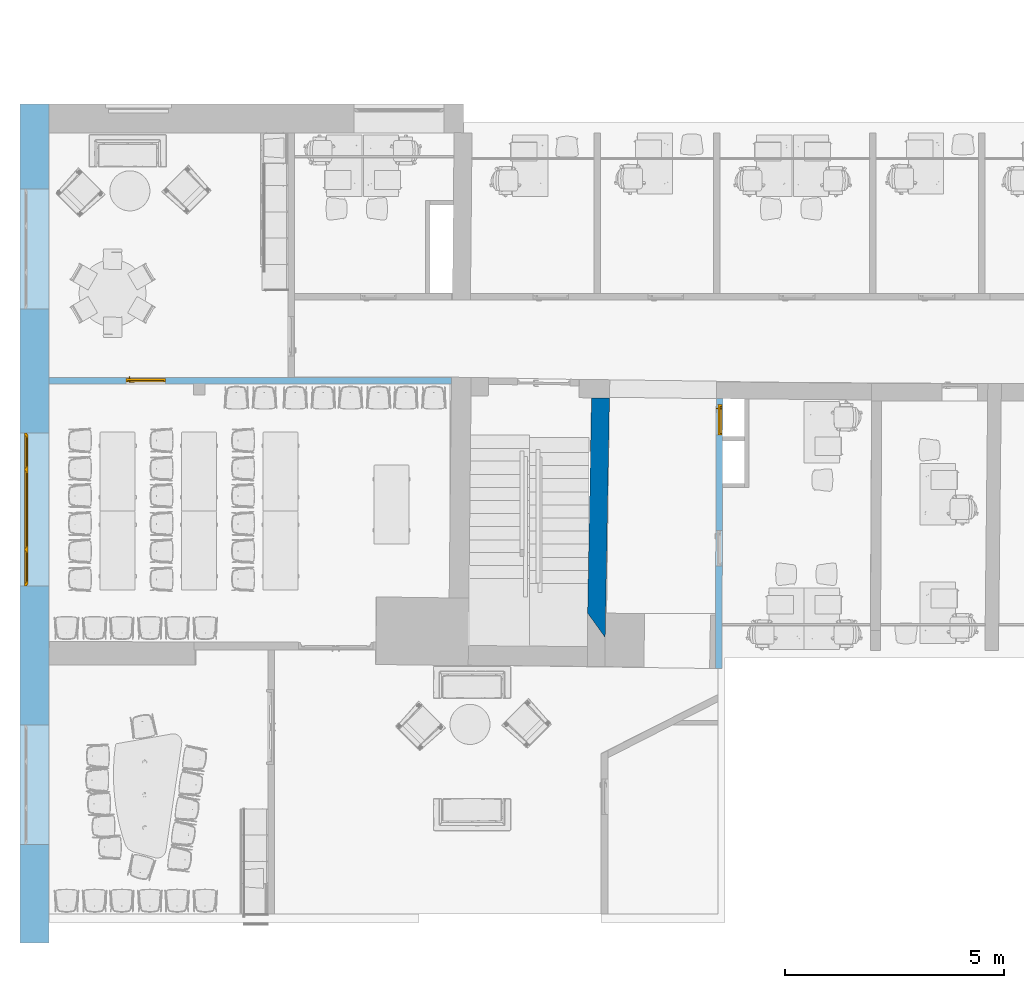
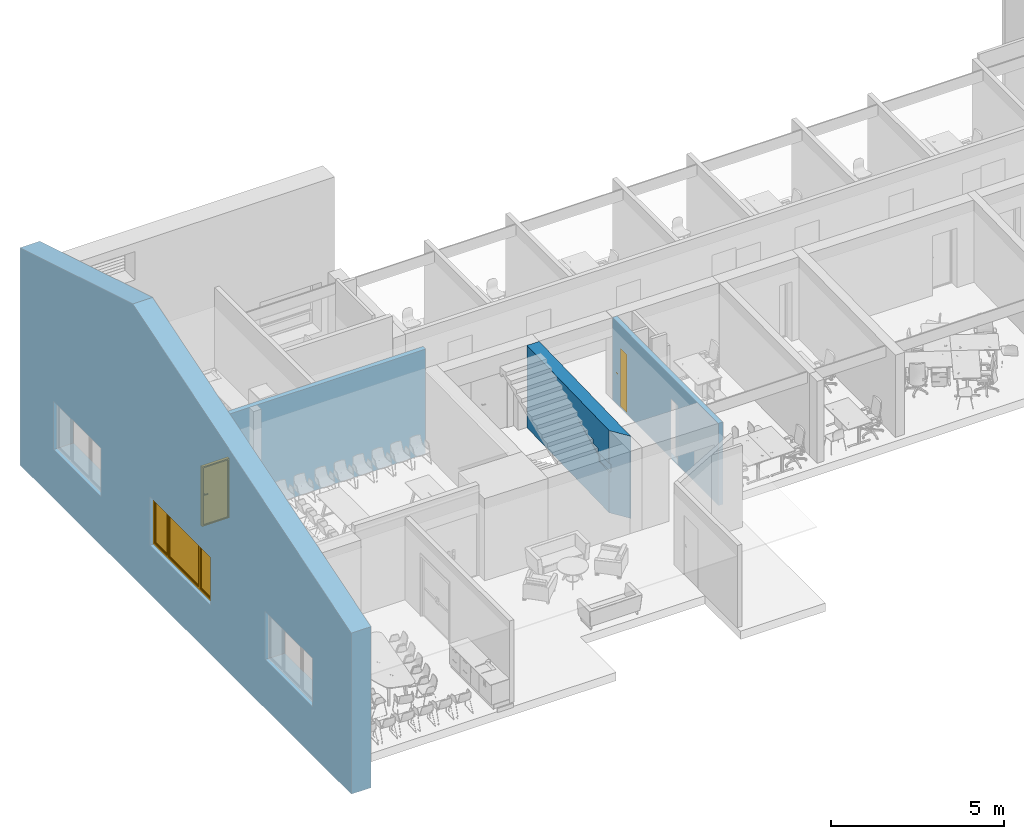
# One storey, part 9 of 19: 2 doors, 1 wall, 1 window, 6 openings, plus 3 elements that do not belong to this part.
"""IFC2X3 building model written with IfcOpenShell, lengths in millimetres."""

from ifc_helpers import new_model, entity, si_unit, converted_unit, derived_unit, direction, frame, frame_2d, origin, place, context, subcontext, project, spatial, polyline, rectangle, outline, extrude, clip, halfspace, bounded_halfspace, faceted_brep, source, transform, mapped, material, material_list, layer, layer_set, layer_usage, type_object, type_shapes, element, fill, save


model = new_model("IFC2X3")

# Units and contexts
model_context = context("Model", 3, precision=0.01, world=origin(), true_north=direction((6.12303176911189e-17, 1.0)))
context_of_model = context(None, 3, precision=0.01, world=origin(), true_north=direction((6.12303176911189e-17, 1.0)))
body_context = subcontext(model_context, "Body", "Model", "MODEL_VIEW")
ifc_project = project(units=[si_unit("LENGTHUNIT", "METRE", prefix="MILLI"), si_unit("AREAUNIT", "SQUARE_METRE"), si_unit("VOLUMEUNIT", "CUBIC_METRE"), converted_unit("PLANEANGLEUNIT", "DEGREE", entity("IfcRatioMeasure", 0.0174532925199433), si_unit("PLANEANGLEUNIT", "RADIAN"), dimensions=[0, 0, 0, 0, 0, 0, 0]), si_unit("MASSUNIT", "GRAM", prefix="KILO"), derived_unit("MASSDENSITYUNIT", [(si_unit("MASSUNIT", "GRAM", prefix="KILO"), 1), (si_unit("LENGTHUNIT", "METRE"), -3)]), si_unit("TIMEUNIT", "SECOND"), si_unit("FREQUENCYUNIT", "HERTZ"), si_unit("THERMODYNAMICTEMPERATUREUNIT", "DEGREE_CELSIUS"), derived_unit("THERMALTRANSMITTANCEUNIT", [(si_unit("MASSUNIT", "GRAM", prefix="KILO"), 1), (si_unit("THERMODYNAMICTEMPERATUREUNIT", "KELVIN"), -1), (si_unit("TIMEUNIT", "SECOND"), -3)]), derived_unit("VOLUMETRICFLOWRATEUNIT", [(si_unit("LENGTHUNIT", "METRE"), 3), (si_unit("TIMEUNIT", "SECOND"), -1)]), si_unit("ELECTRICCURRENTUNIT", "AMPERE"), si_unit("ELECTRICVOLTAGEUNIT", "VOLT"), si_unit("POWERUNIT", "WATT"), si_unit("FORCEUNIT", "NEWTON", prefix="KILO"), si_unit("ILLUMINANCEUNIT", "LUX"), si_unit("LUMINOUSFLUXUNIT", "LUMEN"), si_unit("LUMINOUSINTENSITYUNIT", "CANDELA"), derived_unit("USERDEFINED", [(si_unit("MASSUNIT", "GRAM", prefix="KILO"), -1), (si_unit("LENGTHUNIT", "METRE"), -2), (si_unit("TIMEUNIT", "SECOND"), 3), (si_unit("LUMINOUSFLUXUNIT", "LUMEN"), 1)]), derived_unit("LINEARVELOCITYUNIT", [(si_unit("LENGTHUNIT", "METRE"), 1), (si_unit("TIMEUNIT", "SECOND"), -1)]), si_unit("PRESSUREUNIT", "PASCAL"), derived_unit("USERDEFINED", [(si_unit("LENGTHUNIT", "METRE"), -2), (si_unit("MASSUNIT", "GRAM", prefix="KILO"), 1), (si_unit("TIMEUNIT", "SECOND"), -2)])], contexts=[model_context, context_of_model])

# Site, building, storey
site_placement = place(None, frame((121442.264707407, 135347.995453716, -1800.0)))
site = spatial("IfcSite", under=ifc_project, at=site_placement, Name="Surface", CompositionType="ELEMENT")
building_placement = place(site_placement, origin())
building = spatial("IfcBuilding", under=site, at=building_placement, CompositionType="ELEMENT")
storey_placement = place(building_placement, frame((0.0, 0.0, 5125.0)))
storey = spatial("IfcBuildingStorey", under=building, at=storey_placement, Name="2 korrus", CompositionType="ELEMENT", Elevation=5125.00000000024)

# Wall, openings, door
ifc_material_1 = material(Name="__Betoonelement")
ifc_layer_1 = layer(ifc_material_1, 150.0)
ifc_layer_set_1 = layer_set([ifc_layer_1], Name="Basic Wall:15_Betoon")
ifc_layer_usage_1 = layer_usage(ifc_layer_set_1, "AXIS2", "NEGATIVE", 75.0)
wall_type_1 = type_object("IfcWallType", Name="Basic Wall:15_Betoon", PredefinedType="STANDARD", material=ifc_layer_set_1)
wall_1_placement = place(storey_placement, frame((-103674.129993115, -127553.831899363, -5.0), z_axis=(0.0, 0.0, 1.0), x_axis=(0.00343135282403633, 0.999994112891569, 0.0)))
wall_1 = element("IfcWallStandardCase", 1, at=wall_1_placement, inside=storey, type_object=wall_type_1, material=ifc_layer_usage_1, Name="Basic Wall:15_Betoon", ObjectType="Basic Wall:15_Betoon", context=body_context, shape_type="Clipping", body=[
    clip(extrude(outline(polyline([(6152.17328757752, -75.0), (6152.95022643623, 75.0), (2.10342780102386, 75.0), (0.0, -75.0), (6152.17328757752, -75.0)])), origin(), (0.0, 0.0, 1.0), 2902.0), bounded_halfspace(frame((0.0, -75.0, 2902.0), z_axis=(0.0, 0.0, -1.0), x_axis=(-0.999994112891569, -0.00343135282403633, 0.0)), True, frame((0.0, -75.0, 2902.0)), polyline([(0.0, 0.0), (6152.17328757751, 0.0), (6152.95022643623, 150.0), (1222.22337253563, 150.0), (2.10342780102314, 150.0), (0.0, 0.0)]))),
])
opening_1_placement = place(wall_1_placement, frame((2340.94737332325, -73.6103021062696, 5.0)))
element("IfcOpeningElement", 2, at=opening_1_placement, cuts=wall_1, Name="sma_D01:810 x 2110_SU-01 Siseuks:1", ObjectType="Opening", context=body_context, shape_type="SweptSolid", body=[
    extrude(rectangle(XDim=2099.99999999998, YDim=810.0, at=frame_2d((1049.99999999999, 405.0), x_axis=(1.0, 0.0))), frame((0.0, 0.0, 0.0), z_axis=(0.00343135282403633, 0.999994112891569, 0.0), x_axis=(0.0, 0.0, 1.0)), (0.0, 0.0, 1.0), 150.0),
])
opening_2_placement = place(wall_1_placement, frame((5319.48220216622, -73.79902651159, 5.0)))
opening_2 = element("IfcOpeningElement", 3, at=opening_2_placement, cuts=wall_1, Name="sma_D01:700 x 2100mm SU-13 Tuletokke:1", ObjectType="Opening", context=body_context, shape_type="SweptSolid", body=[
    extrude(rectangle(XDim=2099.99999999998, YDim=700.0, at=frame_2d((1049.99999999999, 350.000000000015), x_axis=(1.0, 0.0))), frame((0.0, 0.0, 0.0), z_axis=(0.00343135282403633, 0.999994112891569, 0.0), x_axis=(0.0, 0.0, 1.0)), (0.0, 0.0, 1.0), 150.0),
])
ifc_material_2 = material(Name="Metal - Aluminium")
ifc_material_3 = material(Name="Metalli - teras- valge")
ifc_material_list_1 = material_list([ifc_material_2, ifc_material_3])
ifc_material_list_2 = material_list([ifc_material_2, ifc_material_3])
door_style_1 = type_object("IfcDoorStyle", Name="700 x 2100mm SU-13 Tuletokke", ConstructionType="NOTDEFINED", OperationType="SINGLE_SWING_LEFT", ParameterTakesPrecedence=False, Sizeable=False, material=ifc_material_list_2)
shared_shape_1 = source(origin(), body_context, "Body", "Brep", [
    faceted_brep([(600.0, 40.0, 1112.5), (505.0, 40.0, 1112.5), (505.0, 35.0, 1112.5), (625.0, 35.0, 1112.5), (625.0, 78.0, 1112.5), (600.0, 78.0, 1112.5), (600.0, 40.0, 1087.5), (600.0, 78.0, 1087.5), (625.0, 78.0, 1087.5), (625.0, 35.0, 1087.5), (505.0, 35.0, 1087.5), (505.0, 40.0, 1087.5)], [[[0, 1, 2, 3, 4, 5]], [[6, 7, 8, 9, 10, 11]], [[5, 7, 6, 0]], [[4, 8, 7, 5]], [[3, 9, 8, 4]], [[2, 10, 9, 3]], [[1, 11, 10, 2]], [[0, 6, 11, 1]]]),
    faceted_brep([(587.500000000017, 78.0, 1137.5), (637.500000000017, 78.0, 1137.5), (637.500000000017, 80.0, 1137.5), (587.500000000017, 80.0, 1137.5), (587.500000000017, 78.0, 1017.5), (587.500000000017, 80.0, 1017.5), (637.500000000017, 80.0, 1017.5), (637.500000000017, 78.0, 1017.5)], [[[0, 1, 2, 3]], [[4, 5, 6, 7]], [[3, 5, 4, 0]], [[2, 6, 5, 3]], [[1, 7, 6, 2]], [[0, 4, 7, 1]]]),
    faceted_brep([(600.0, 170.0, 1112.5), (600.0, 132.0, 1112.5), (625.0, 132.0, 1112.5), (625.0, 175.0, 1112.5), (505.0, 175.0, 1112.5), (505.0, 170.0, 1112.5), (600.0, 170.0, 1087.5), (505.0, 170.0, 1087.5), (505.0, 175.0, 1087.5), (625.0, 175.0, 1087.5), (625.0, 132.0, 1087.5), (600.0, 132.0, 1087.5)], [[[0, 1, 2, 3, 4, 5]], [[6, 7, 8, 9, 10, 11]], [[1, 0, 6, 11]], [[2, 1, 11, 10]], [[3, 2, 10, 9]], [[4, 3, 9, 8]], [[5, 4, 8, 7]], [[0, 5, 7, 6]]]),
    faceted_brep([(587.500000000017, 132.0, 1137.5), (587.500000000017, 130.0, 1137.5), (637.500000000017, 130.0, 1137.5), (637.500000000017, 132.0, 1137.5), (587.500000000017, 132.0, 1017.5), (637.500000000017, 132.0, 1017.5), (637.500000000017, 130.0, 1017.5), (587.500000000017, 130.0, 1017.5)], [[[0, 1, 2, 3]], [[4, 5, 6, 7]], [[1, 0, 4, 7]], [[2, 1, 7, 6]], [[3, 2, 6, 5]], [[0, 3, 5, 4]]]),
    faceted_brep([(0.0, 40.0, 0.0), (0.0, 130.0, 0.0), (25.0, 130.0, 0.0), (25.0, 80.0, 0.0), (40.0, 80.0, 0.0), (40.0, 40.0, 0.0), (40.0, 40.0, 2060.0), (660.0, 40.0, 2060.0), (660.0, 40.0, 0.0), (700.0, 40.0, 0.0), (700.0, 40.0, 2100.0), (0.0, 40.0, 2100.0), (40.0, 80.0, 2060.0), (25.0, 80.0, 2075.0), (675.0, 80.0, 2075.0), (675.0, 80.0, 0.0), (660.0, 80.0, 0.0), (660.0, 80.0, 2060.0), (25.0, 130.0, 2075.0), (0.0, 130.0, 2100.0), (700.0, 130.0, 2100.0), (700.0, 130.0, 0.0), (675.0, 130.0, 0.0), (675.0, 130.0, 2075.0)], [[[0, 1, 2, 3, 4, 5]], [[5, 6, 7, 8, 9, 10, 11, 0]], [[4, 12, 6, 5]], [[3, 13, 14, 15, 16, 17, 12, 4]], [[2, 18, 13, 3]], [[1, 19, 20, 21, 22, 23, 18, 2]], [[0, 11, 19, 1]], [[10, 9, 21, 20]], [[9, 8, 16, 15, 22, 21]], [[17, 16, 8, 7]], [[23, 22, 15, 14]], [[12, 17, 7, 6]], [[18, 23, 14, 13]], [[11, 10, 20, 19]]]),
    faceted_brep([(675.0, 80.0, 2075.0), (25.0, 80.0, 2075.0), (25.0, 80.0, 20.0), (675.0, 80.0, 20.0), (675.0, 130.0, 2075.0), (675.0, 130.0, 20.0), (25.0, 130.0, 20.0), (25.0, 130.0, 2075.0)], [[[0, 1, 2, 3]], [[4, 5, 6, 7]], [[3, 5, 4, 0]], [[2, 6, 5, 3]], [[1, 7, 6, 2]], [[0, 4, 7, 1]]]),
    faceted_brep([(40.0, 40.0, 30.0), (40.0, 80.0, 30.0), (40.0, 80.0, 20.0), (40.0, 80.0, 0.0), (40.0, 40.0, 0.0), (660.0, 40.0, 30.0), (660.0, 40.0, 0.0), (660.0, 80.0, 0.0), (660.0, 80.0, 20.0), (660.0, 80.0, 30.0), (25.0, 80.0, 0.0), (25.0, 130.0, 0.0), (675.0, 130.0, 0.0), (675.0, 80.0, 0.0), (25.0, 130.0, 20.0), (25.0, 80.0, 20.0), (675.0, 130.0, 20.0), (675.0, 80.0, 20.0)], [[[0, 1, 2, 3, 4]], [[5, 6, 7, 8, 9]], [[4, 6, 5, 0]], [[3, 10, 11, 12, 13, 7, 6, 4]], [[9, 8, 2, 1]], [[0, 5, 9, 1]], [[14, 11, 10, 15]], [[16, 17, 13, 12]], [[15, 2, 8, 17, 16, 14]], [[10, 3, 2, 15]], [[14, 16, 12, 11]], [[17, 8, 7, 13]]]),
])
type_shapes(door_style_1, [shared_shape_1])
door_1_placement = place(opening_2_placement, frame((0.0, -19.4545427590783, 0.0)))
door_1 = element("IfcDoor", 4, at=door_1_placement, inside=storey, type_object=door_style_1, material=ifc_material_list_1, Name="sma_D01:700 x 2100mm SU-13 Tuletokke", ObjectType="700 x 2100mm SU-13 Tuletokke", OverallHeight=2099.99999999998, OverallWidth=700.000000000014, context=body_context, shape_type="MappedRepresentation", body=[
    mapped(shared_shape_1, transform((0.0, 0.0, 0.0), scale=1.0)),
])
fill(opening_2, door_1)

# Wall
ifc_layer_2 = layer(ifc_material_1, 410.0)
ifc_layer_set_2 = layer_set([ifc_layer_2], Name="Basic Wall:41_Betoon 2")
wall_type_2 = type_object("IfcWallType", Name="Basic Wall:41_Betoon 2", PredefinedType="STANDARD", material=ifc_layer_set_2)
wall_2_placement = place(storey_placement, frame((-106464.55483536, -126843.899324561, 0.0), z_axis=(0.0, 0.0, 1.0), x_axis=(0.0179982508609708, 0.999838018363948, 0.0)))
element("IfcWall", 5, at=wall_2_placement, inside=storey, type_object=wall_type_2, Name="Basic Wall:41_Betoon 2", ObjectType="Basic Wall:41_Betoon 2", context=body_context, shape_type="Brep", body=[
    faceted_brep([(0.0, -205.0, 0.0), (560.038789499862, -205.0, 0.0), (5457.6038059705, -205.0, 0.0), (5457.6038059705, -205.0, 2897.0), (560.038789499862, -205.0, 2897.0), (0.0, -205.0, 2897.0), (5457.07467158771, 205.0, 0.0), (551.919606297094, 205.0, 0.0), (551.919606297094, 205.0, 1445.53078869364), (1143.06851692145, 205.0, 1445.53078869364), (1143.06851692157, 205.0, 1612.96104898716), (2490.83920232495, 205.0, 2193.39023738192), (2490.83920232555, 205.0, 2399.21104898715), (2424.78177030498, 205.0, 2399.21104898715), (2424.78177030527, 205.0, 2264.21104898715), (2124.73316794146, 205.0, 2264.21104898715), (2124.73316794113, 205.0, 2134.21104898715), (1824.68456557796, 205.0, 2134.21104898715), (1824.68456557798, 205.0, 1999.21104898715), (1524.63596321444, 205.0, 1999.21104898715), (1524.63596321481, 205.0, 1869.21104898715), (1224.58736085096, 205.0, 1869.21104898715), (1224.5873608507, 205.0, 1737.96104898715), (551.919606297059, 205.0, 1737.96104898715), (551.919606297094, 205.0, 2897.0), (4375.25687216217, 205.0, 2897.0), (5457.07467158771, 205.0, 2897.0), (456.97096783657, 134.466282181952, 2897.0), (503.768537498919, 169.230409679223, 1737.96104898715), (503.768537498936, 169.23040967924, 1445.53078869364), (2424.80316875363, 203.811274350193, 2264.21104898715), (2424.80316875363, 203.811274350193, 2399.21104898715), (1143.5051097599, 180.746414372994, 1612.96104898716), (1143.5051097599, 180.746414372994, 1445.53078869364), (1224.99754671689, 182.213373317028, 1737.96104898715), (1224.99754671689, 182.213373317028, 1869.21104898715), (1524.94895222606, 187.612848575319, 1869.21104898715), (1524.94895222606, 187.612848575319, 1999.21104898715), (1824.90035773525, 193.01232383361, 1999.21104898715), (1824.90035773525, 193.01232383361, 2134.21104898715), (2124.85176324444, 198.411799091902, 2134.21104898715), (2124.85176324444, 198.411799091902, 2264.21104898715), (4219.3107216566, 202.192787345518, 2897.0)], [[[0, 1, 2, 3, 4, 5]], [[6, 7, 8, 9, 10, 11, 12, 13, 14, 15, 16, 17, 18, 19, 20, 21, 22, 23, 24, 25, 26]], [[2, 1, 0, 7, 6]], [[0, 5, 27, 24, 23, 28, 29, 8, 7]], [[3, 2, 6, 26]], [[30, 31, 12, 11, 32, 33, 29, 28, 34, 35, 36, 37, 38, 39, 40, 41]], [[12, 31, 13]], [[31, 30, 14, 13]], [[30, 41, 15, 14]], [[41, 40, 16, 15]], [[40, 39, 17, 16]], [[39, 38, 18, 17]], [[38, 37, 19, 18]], [[37, 36, 20, 19]], [[36, 35, 21, 20]], [[35, 34, 22, 21]], [[34, 28, 23, 22]], [[33, 32, 10, 9]], [[32, 11, 10]], [[29, 33, 9, 8]], [[25, 24, 27, 42]], [[27, 5, 4, 3, 26, 25, 42]]]),
])

# Wall, openings, window
ifc_material_4 = material(Name="Plaster")
ifc_layer_3 = layer(ifc_material_4, 10.0)
ifc_material_5 = material(Name="Polystyrene")
ifc_layer_4 = layer(ifc_material_5, 150.0)
ifc_layer_5 = layer(ifc_material_1, 500.0)
ifc_layer_set_3 = layer_set([ifc_layer_3, ifc_layer_4, ifc_layer_5], Name="Basic Wall:Olemasolev Soojustatud Välissein")
ifc_layer_usage_2 = layer_usage(ifc_layer_set_3, "AXIS2", "NEGATIVE", 330.0)
wall_type_3 = type_object("IfcWallType", Name="Basic Wall:Olemasolev Soojustatud Välissein", PredefinedType="STANDARD", material=ifc_layer_set_3)
wall_3_placement = place(storey_placement, frame((-119265.776610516, -133809.317476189, -826.94497628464), z_axis=(0.0, 0.0, 1.0), x_axis=(0.0, 1.0, 0.0)))
wall_3 = element("IfcWallStandardCase", 6, at=wall_3_placement, inside=storey, type_object=wall_type_3, material=ifc_layer_usage_2, Name="Basic Wall:Olemasolev Soojustatud Välissein", ObjectType="Basic Wall:Olemasolev Soojustatud Välissein", context=body_context, shape_type="Clipping", body=[
    clip(clip(extrude(rectangle(XDim=19127.3983638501, YDim=659.999999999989, at=frame_2d((9563.69918192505, -5.6843418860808e-14), x_axis=(-1.0, 0.0))), origin(), (0.0, 0.0, 1.0), 9629.49814305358), halfspace(frame((12614.5928956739, -330.0, 9629.49814305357), z_axis=(0.289651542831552, 0.0, 0.957132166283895), x_axis=(0.0, 1.0, 0.0)), False)), halfspace(frame((0.0, -330.0, 5674.42025918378), z_axis=(-0.299171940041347, 0.0, 0.954199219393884), x_axis=(0.0, 1.0, 0.0)), False)),
])
opening_3_placement = place(wall_3_placement, frame((14452.3983638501, -330.0, 1726.94497628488)))
element("IfcOpeningElement", 7, at=opening_3_placement, cuts=wall_3, Name="sma_W5:A-4 2470 x 1200mm Avatav:1", ObjectType="Opening", context=body_context, shape_type="SweptSolid", body=[
    extrude(rectangle(XDim=1700.0, YDim=2730.0, at=frame_2d((850.0, 1365.0), x_axis=(1.0, 0.0))), frame((0.0, 0.0, 0.0), z_axis=(0.0, 1.0, 0.0), x_axis=(0.0, 0.0, 1.0)), (0.0, 0.0, 1.0), 660.0),
])
opening_4_placement = place(wall_3_placement, frame((8133.67684417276, -330.0, 1726.94497628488)))
opening_4 = element("IfcOpeningElement", 8, at=opening_4_placement, cuts=wall_3, Name="sma_W5:A-3 3490 x 1700mm Avatav:1", ObjectType="Opening", context=body_context, shape_type="SweptSolid", body=[
    extrude(rectangle(XDim=1700.0, YDim=3490.0, at=frame_2d((850.0, 1745.0), x_axis=(1.0, 0.0))), frame((0.0, 0.0, 0.0), z_axis=(0.0, 1.0, 0.0), x_axis=(0.0, 0.0, 1.0)), (0.0, 0.0, 1.0), 660.0),
])
opening_5_placement = place(wall_3_placement, frame((2245.0, -330.0, 1726.94497628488)))
element("IfcOpeningElement", 9, at=opening_5_placement, cuts=wall_3, Name="sma_W5:A-4 2470 x 1200mm Avatav:1", ObjectType="Opening", context=body_context, shape_type="SweptSolid", body=[
    extrude(rectangle(XDim=1700.0, YDim=2730.0, at=frame_2d((850.0, 1365.0), x_axis=(1.0, 0.0))), frame((0.0, 0.0, 0.0), z_axis=(0.0, 1.0, 0.0), x_axis=(0.0, 0.0, 1.0)), (0.0, 0.0, 1.0), 660.0),
])
ifc_material_6 = material(Name="Glass")
ifc_material_7 = material(Name="Default")
ifc_material_8 = material(Name="PVC, Flexible")
ifc_material_list_3 = material_list([ifc_material_6, ifc_material_7, ifc_material_8])
ifc_material_list_4 = material_list([ifc_material_6, ifc_material_7, ifc_material_8])
window_style = type_object("IfcWindowStyle", Name="A-3 3490 x 1700mm Avatav", ConstructionType="OTHER_CONSTRUCTION", OperationType="NOTDEFINED", ParameterTakesPrecedence=False, Sizeable=False, material=ifc_material_list_4)
shared_shape_2 = source(origin(), body_context, "Body", "Brep", [
    faceted_brep([(105.0, 493.09170113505, 105.0), (765.0, 493.091701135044, 105.0), (765.0, 493.091701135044, 1595.0), (105.0, 493.09170113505, 1595.0), (105.0, 513.09170113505, 105.0), (765.0, 513.091701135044, 105.0), (765.0, 513.091701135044, 1595.0), (105.0, 513.09170113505, 1595.0)], [[[0, 1, 2, 3]], [[1, 0, 4, 5]], [[2, 1, 5, 6]], [[0, 3, 7, 4]], [[4, 7, 6, 5]], [[3, 2, 6, 7]]]),
    faceted_brep([(905.0, 493.091701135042, 105.0), (2585.0, 493.091701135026, 105.0), (2585.0, 493.091701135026, 1595.0), (905.0, 493.091701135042, 1595.0), (905.0, 513.091701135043, 105.0), (2585.0, 513.091701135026, 105.0), (2585.0, 513.091701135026, 1595.0), (905.0, 513.091701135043, 1595.0)], [[[0, 1, 2, 3]], [[1, 0, 4, 5]], [[2, 1, 5, 6]], [[0, 3, 7, 4]], [[4, 7, 6, 5]], [[3, 2, 6, 7]]]),
    faceted_brep([(2725.0, 493.091701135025, 105.0), (3385.0, 493.091701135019, 105.0), (3385.0, 493.091701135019, 1595.0), (2725.0, 493.091701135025, 1595.0), (2725.0, 513.091701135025, 105.0), (3385.0, 513.091701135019, 105.0), (3385.0, 513.091701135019, 1595.0), (2725.0, 513.091701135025, 1595.0)], [[[0, 1, 2, 3]], [[1, 0, 4, 5]], [[2, 1, 5, 6]], [[0, 3, 7, 4]], [[4, 7, 6, 5]], [[3, 2, 6, 7]]]),
    faceted_brep([(35.0, 478.091701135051, 35.0), (835.0, 478.091701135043, 35.0), (835.0, 478.091701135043, 1665.0), (35.0, 478.091701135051, 1665.0), (105.0, 478.09170113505, 105.0), (105.0, 478.09170113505, 1595.0), (765.0, 478.091701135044, 1595.0), (765.0, 478.091701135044, 105.0), (35.0, 528.091701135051, 35.0), (835.0, 528.091701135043, 35.0), (835.0, 528.091701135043, 1665.0), (35.0, 528.091701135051, 1665.0), (105.0, 528.09170113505, 105.0), (105.0, 528.09170113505, 1595.0), (765.0, 528.091701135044, 1595.0), (765.0, 528.091701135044, 105.0)], [[[0, 1, 2, 3], [4, 5, 6, 7]], [[1, 0, 8, 9]], [[2, 1, 9, 10]], [[0, 3, 11, 8]], [[5, 4, 12, 13]], [[7, 6, 14, 15]], [[4, 7, 15, 12]], [[8, 11, 10, 9], [12, 15, 14, 13]], [[3, 2, 10, 11]], [[6, 5, 13, 14]]]),
    faceted_brep([(835.0, 478.091701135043, 35.0), (2655.0, 478.091701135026, 35.0), (2655.0, 478.091701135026, 1665.0), (835.0, 478.091701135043, 1665.0), (905.0, 478.091701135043, 1595.0), (2585.0, 478.091701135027, 1595.0), (2585.0, 478.091701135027, 105.0), (905.0, 478.091701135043, 105.0), (835.0, 528.091701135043, 35.0), (2655.0, 528.091701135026, 35.0), (2655.0, 528.091701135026, 1665.0), (835.0, 528.091701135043, 1665.0), (2585.0, 528.091701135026, 1595.0), (2585.0, 528.091701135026, 105.0), (905.0, 528.091701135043, 105.0), (905.0, 528.091701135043, 1595.0)], [[[0, 1, 2, 3], [4, 5, 6, 7]], [[1, 0, 8, 9]], [[2, 1, 9, 10]], [[0, 3, 11, 8]], [[6, 5, 12, 13]], [[7, 6, 13, 14]], [[4, 7, 14, 15]], [[8, 11, 10, 9], [15, 14, 13, 12]], [[3, 2, 10, 11]], [[5, 4, 15, 12]]]),
    faceted_brep([(2655.0, 478.091701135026, 1665.0), (2655.0, 478.091701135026, 35.0), (3455.0, 478.091701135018, 35.0), (3455.0, 478.091701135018, 1665.0), (2725.0, 478.091701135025, 1595.0), (3385.0, 478.091701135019, 1595.0), (3385.0, 478.091701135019, 105.0), (2725.0, 478.091701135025, 105.0), (2655.0, 528.091701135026, 1665.0), (2655.0, 528.091701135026, 35.0), (3455.0, 528.091701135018, 35.0), (3455.0, 528.091701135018, 1665.0), (3385.0, 528.091701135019, 1595.0), (3385.0, 528.091701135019, 105.0), (2725.0, 528.091701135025, 105.0), (2725.0, 528.091701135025, 1595.0)], [[[0, 1, 2, 3], [4, 5, 6, 7]], [[1, 0, 8, 9]], [[2, 1, 9, 10]], [[3, 2, 10, 11]], [[6, 5, 12, 13]], [[7, 6, 13, 14]], [[4, 7, 14, 15]], [[15, 14, 13, 12], [8, 11, 10, 9]], [[0, 3, 11, 8]], [[5, 4, 15, 12]]], outer=[[True, False], [True], [True], [True], [True], [True], [True], [False, True], [True], [True]]),
    faceted_brep([(0.0, 503.091701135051, 0.0), (3490.0, 503.091701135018, 0.0), (3490.0, 503.091701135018, 1700.0), (0.0, 503.091701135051, 1700.0), (35.0, 503.091701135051, 1665.0), (3455.0, 503.091701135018, 1665.0), (3455.0, 503.091701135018, 35.0), (35.0, 503.091701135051, 35.0), (0.0, 553.091701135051, 0.0), (3490.0, 553.091701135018, 0.0), (3490.0, 553.091701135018, 1700.0), (0.0, 553.091701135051, 1700.0), (3455.0, 528.091701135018, 1665.0), (3455.0, 528.091701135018, 35.0), (35.0, 528.091701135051, 35.0), (35.0, 528.091701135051, 1665.0), (70.0, 553.09170113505, 70.0), (800.0, 553.091701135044, 70.0), (800.0, 553.091701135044, 1630.0), (70.0, 553.09170113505, 1630.0), (870.0, 553.091701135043, 1630.0), (870.0, 553.091701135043, 70.0), (2620.0, 553.091701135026, 70.0), (2620.0, 553.091701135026, 1630.0), (2690.0, 553.091701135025, 70.0), (3420.0, 553.091701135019, 70.0), (3420.0, 553.091701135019, 1630.0), (2690.0, 553.091701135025, 1630.0), (2690.0, 528.091701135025, 70.0), (3420.0, 528.091701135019, 70.0), (3420.0, 528.091701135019, 1630.0), (2690.0, 528.091701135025, 1630.0), (870.0, 528.091701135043, 1630.0), (870.0, 528.091701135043, 70.0), (2620.0, 528.091701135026, 70.0), (2620.0, 528.091701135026, 1630.0), (70.0, 528.091701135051, 70.0), (800.0, 528.091701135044, 70.0), (800.0, 528.091701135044, 1630.0), (70.0, 528.091701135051, 1630.0)], [[[0, 1, 2, 3], [4, 5, 6, 7]], [[1, 0, 8, 9]], [[2, 1, 9, 10]], [[0, 3, 11, 8]], [[12, 13, 6, 5]], [[6, 13, 14, 7]], [[14, 15, 4, 7]], [[8, 11, 10, 9], [16, 17, 18, 19], [20, 21, 22, 23], [24, 25, 26, 27]], [[25, 24, 28, 29]], [[26, 25, 29, 30]], [[24, 27, 31, 28]], [[21, 20, 32, 33]], [[22, 21, 33, 34]], [[23, 22, 34, 35]], [[17, 16, 36, 37]], [[18, 17, 37, 38]], [[16, 19, 39, 36]], [[13, 12, 15, 14], [28, 31, 30, 29], [36, 39, 38, 37], [32, 35, 34, 33]], [[3, 2, 10, 11]], [[15, 12, 5, 4]], [[27, 26, 30, 31]], [[20, 23, 35, 32]], [[19, 18, 38, 39]]]),
])
type_shapes(window_style, [shared_shape_2])
window_placement = place(opening_4_placement, origin())
window = element("IfcWindow", 10, at=window_placement, inside=storey, type_object=window_style, material=ifc_material_list_3, Name="sma_W5:A-3 3490 x 1700mm Avatav", ObjectType="A-3 3490 x 1700mm Avatav", OverallHeight=1700.0, OverallWidth=3490.0, context=body_context, shape_type="MappedRepresentation", body=[
    mapped(shared_shape_2, transform((0.0, 0.0, 0.0), scale=1.0)),
])
fill(opening_4, window)

# Wall, opening, door
ifc_layer_6 = layer(ifc_material_4, 10.0)
ifc_material_9 = material(Name="EST. Müüritis. Väikeplokk. Kergkruusplokk")
ifc_layer_7 = layer(ifc_material_9, 130.0)
ifc_layer_8 = layer(ifc_material_4, 10.0)
ifc_layer_set_4 = layer_set([ifc_layer_6, ifc_layer_7, ifc_layer_8], Name="Basic Wall:15_FIBO")
ifc_layer_usage_3 = layer_usage(ifc_layer_set_4, "AXIS2", "POSITIVE", -75.0)
wall_type_4 = type_object("IfcWallType", Name="Basic Wall:15_FIBO", PredefinedType="STANDARD", material=ifc_layer_set_4)
wall_4_placement = place(storey_placement, frame((-109760.980380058, -120991.464570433, 0.0), z_axis=(0.0, 0.0, 1.0), x_axis=(-1.0, 0.0, 0.0)))
wall_4 = element("IfcWallStandardCase", 11, at=wall_4_placement, inside=storey, type_object=wall_type_4, material=ifc_layer_usage_3, Name="Basic Wall:15_FIBO", ObjectType="Basic Wall:15_FIBO", context=body_context, shape_type="SweptSolid", body=[
    extrude(rectangle(XDim=9174.79623045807, YDim=150.000000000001, at=frame_2d((4587.39811522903, 7.105427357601e-15), x_axis=(1.0, 0.0))), origin(), (0.0, 0.0, 1.0), 3690.0),
])
opening_6_placement = place(wall_4_placement, frame((7424.79623045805, 75.0, 0.0)))
opening_6 = element("IfcOpeningElement", 12, at=opening_6_placement, cuts=wall_4, Name="sma_D01:910 x 2110_SU-02 Siseuks:1", ObjectType="Opening", context=body_context, shape_type="SweptSolid", body=[
    extrude(rectangle(XDim=2099.99999999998, YDim=910.0, at=frame_2d((1049.99999999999, 455.0), x_axis=(1.0, 0.0))), frame((0.0, 0.0, 0.0), z_axis=(0.0, -1.0, 0.0), x_axis=(0.0, 0.0, 1.0)), (0.0, 0.0, 1.0), 150.0),
])
ifc_material_10 = material(Name="Door - Panel_valge")
ifc_material_list_5 = material_list([ifc_material_2, ifc_material_10])
ifc_material_list_6 = material_list([ifc_material_2, ifc_material_10])
door_style_2 = type_object("IfcDoorStyle", Name="910 x 2110_SU-02 Siseuks", ConstructionType="NOTDEFINED", OperationType="SINGLE_SWING_RIGHT", ParameterTakesPrecedence=False, Sizeable=False, material=ifc_material_list_6)
shared_shape_3 = source(origin(), body_context, "Body", "Brep", [
    faceted_brep([(100.0, 40.0, 1112.5), (100.0, 78.0, 1112.5), (75.0, 78.0, 1112.5), (75.0, 35.0, 1112.5), (195.0, 35.0, 1112.5), (195.0, 40.0, 1112.5), (100.0, 40.0, 1087.5), (195.0, 40.0, 1087.5), (195.0, 35.0, 1087.5), (75.0, 35.0, 1087.5), (75.0, 78.0, 1087.5), (100.0, 78.0, 1087.5)], [[[0, 1, 2, 3, 4, 5]], [[6, 7, 8, 9, 10, 11]], [[1, 0, 6, 11]], [[2, 1, 11, 10]], [[3, 2, 10, 9]], [[4, 3, 9, 8]], [[5, 4, 8, 7]], [[0, 5, 7, 6]]]),
    faceted_brep([(112.5, 78.0, 1137.5), (112.5, 80.0, 1137.5), (62.4999999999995, 80.0, 1137.5), (62.4999999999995, 78.0, 1137.5), (112.5, 78.0, 1017.5), (62.4999999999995, 78.0, 1017.5), (62.4999999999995, 80.0, 1017.5), (112.5, 80.0, 1017.5)], [[[0, 1, 2, 3]], [[4, 5, 6, 7]], [[1, 0, 4, 7]], [[2, 1, 7, 6]], [[3, 2, 6, 5]], [[0, 3, 5, 4]]]),
    faceted_brep([(100.0, 170.0, 1112.5), (195.0, 170.0, 1112.5), (195.0, 175.0, 1112.5), (75.0, 175.0, 1112.5), (75.0, 132.0, 1112.5), (100.0, 132.0, 1112.5), (100.0, 170.0, 1087.5), (100.0, 132.0, 1087.5), (75.0, 132.0, 1087.5), (75.0, 175.0, 1087.5), (195.0, 175.0, 1087.5), (195.0, 170.0, 1087.5)], [[[0, 1, 2, 3, 4, 5]], [[6, 7, 8, 9, 10, 11]], [[5, 7, 6, 0]], [[4, 8, 7, 5]], [[3, 9, 8, 4]], [[2, 10, 9, 3]], [[1, 11, 10, 2]], [[0, 6, 11, 1]]]),
    faceted_brep([(112.5, 132.0, 1137.5), (62.4999999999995, 132.0, 1137.5), (62.4999999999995, 130.0, 1137.5), (112.5, 130.0, 1137.5), (112.5, 132.0, 1017.5), (112.5, 130.0, 1017.5), (62.4999999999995, 130.0, 1017.5), (62.4999999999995, 132.0, 1017.5)], [[[0, 1, 2, 3]], [[4, 5, 6, 7]], [[3, 5, 4, 0]], [[2, 6, 5, 3]], [[1, 7, 6, 2]], [[0, 4, 7, 1]]]),
    faceted_brep([(910.0, 40.0, 0.0), (870.0, 40.0, 0.0), (870.0, 80.0, 0.0), (885.0, 80.0, 0.0), (885.0, 130.0, 0.0), (910.0, 130.0, 0.0), (910.0, 40.0, 2100.0), (0.0, 40.0, 2100.0), (0.0, 40.0, 0.0), (40.0, 40.0, 0.0), (40.0, 40.0, 2060.0), (870.0, 40.0, 2060.0), (870.0, 80.0, 2060.0), (40.0, 80.0, 2060.0), (40.0, 80.0, 0.0), (25.0, 80.0, 0.0), (25.0, 80.0, 2075.0), (885.0, 80.0, 2075.0), (885.0, 130.0, 2075.0), (25.0, 130.0, 2075.0), (25.0, 130.0, 0.0), (0.0, 130.0, 0.0), (0.0, 130.0, 2100.0), (910.0, 130.0, 2100.0)], [[[0, 1, 2, 3, 4, 5]], [[1, 0, 6, 7, 8, 9, 10, 11]], [[2, 1, 11, 12]], [[3, 2, 12, 13, 14, 15, 16, 17]], [[4, 3, 17, 18]], [[5, 4, 18, 19, 20, 21, 22, 23]], [[0, 5, 23, 6]], [[7, 22, 21, 8]], [[8, 21, 20, 15, 14, 9]], [[13, 10, 9, 14]], [[19, 16, 15, 20]], [[12, 11, 10, 13]], [[18, 17, 16, 19]], [[6, 23, 22, 7]]]),
    faceted_brep([(25.0, 80.0, 2075.0), (25.0, 80.0, 20.0), (885.0, 80.0, 20.0), (885.0, 80.0, 2075.0), (25.0, 130.0, 2075.0), (885.0, 130.0, 2075.0), (885.0, 130.0, 20.0), (25.0, 130.0, 20.0)], [[[0, 1, 2, 3]], [[4, 5, 6, 7]], [[1, 0, 4, 7]], [[2, 1, 7, 6]], [[3, 2, 6, 5]], [[0, 3, 5, 4]]]),
    faceted_brep([(870.0, 40.0, 30.0), (870.0, 40.0, 0.0), (870.0, 80.0, 0.0), (870.0, 80.0, 20.0), (870.0, 80.0, 30.0), (40.0, 40.0, 30.0), (40.0, 80.0, 30.0), (40.0, 80.0, 20.0), (40.0, 80.0, 0.0), (40.0, 40.0, 0.0), (25.0, 80.0, 0.0), (25.0, 130.0, 0.0), (885.0, 130.0, 0.0), (885.0, 80.0, 0.0), (885.0, 130.0, 20.0), (885.0, 80.0, 20.0), (25.0, 130.0, 20.0), (25.0, 80.0, 20.0)], [[[0, 1, 2, 3, 4]], [[5, 6, 7, 8, 9]], [[1, 0, 5, 9]], [[2, 1, 9, 8, 10, 11, 12, 13]], [[6, 4, 3, 7]], [[0, 4, 6, 5]], [[14, 15, 13, 12]], [[16, 11, 10, 17]], [[15, 14, 16, 17, 7, 3]], [[13, 15, 3, 2]], [[14, 12, 11, 16]], [[17, 10, 8, 7]]]),
])
type_shapes(door_style_2, [shared_shape_3])
door_2_placement = place(opening_6_placement, frame((0.0, 0.0, 0.0), z_axis=(0.0, 0.0, 1.0), x_axis=(-1.0, 0.0, 0.0)))
door_2 = element("IfcDoor", 13, at=door_2_placement, inside=storey, type_object=door_style_2, material=ifc_material_list_5, Name="sma_D01:910 x 2110_SU-02 Siseuks", ObjectType="910 x 2110_SU-02 Siseuks", OverallHeight=2099.99999999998, OverallWidth=910.000000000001, context=body_context, shape_type="MappedRepresentation", body=[
    mapped(shared_shape_3, transform((0.0, 0.0, 0.0), scale=1.0)),
])
fill(opening_6, door_2)

save(model, "model.ifc")
